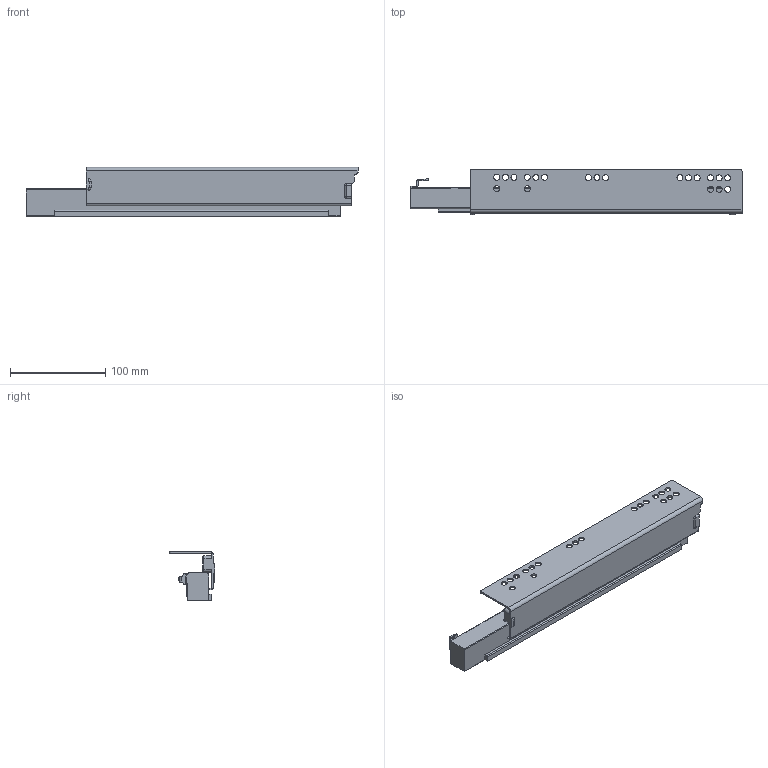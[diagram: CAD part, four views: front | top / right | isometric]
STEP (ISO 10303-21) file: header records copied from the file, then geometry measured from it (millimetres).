
FILE_DESCRIPTION (( 'STEP AP203' ), '1' );
FILE_NAME ('HT103504H-L(敕磁).STEP', '2021-07-31T01:19:10', ( 'Users' ), ( 'Microsoft' ), 'SwSTEP 2.0', 'SolidWorks 2018', '' );
FILE_SCHEMA (( 'CONFIG_CONTROL_DESIGN' ));
Length unit declared in the file: millimetre
Products named in the file (1): HT103504H-L(敕磁)
Bounding box: 348 x 47.5 x 51.73 mm (x, y, z)
Volume: 295632.9 mm3; surface area: 89936.6 mm2
Topology: 1 solids, 1 shells, 212 faces, 560 edges, 350 vertices
Faces by surface type: cylinder 94, plane 64, cone 40, torus 12, sphere 2
Entity records: 6719 total; most frequent: DIRECTION 1227, CARTESIAN_POINT 1136, ORIENTED_EDGE 1116, EDGE_CURVE 558, AXIS2_PLACEMENT_3D 461, VERTEX_POINT 350, VECTOR 305, LINE 305
